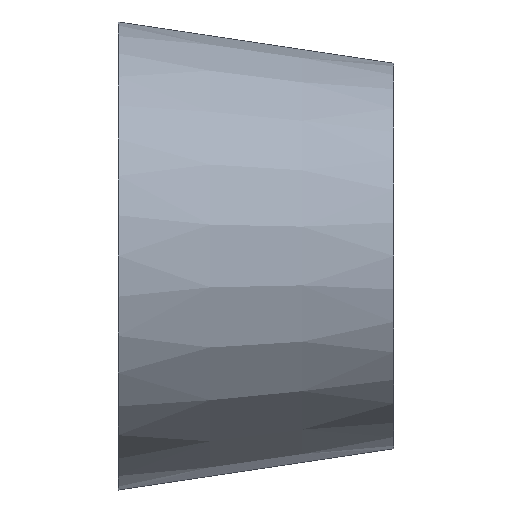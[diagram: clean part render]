
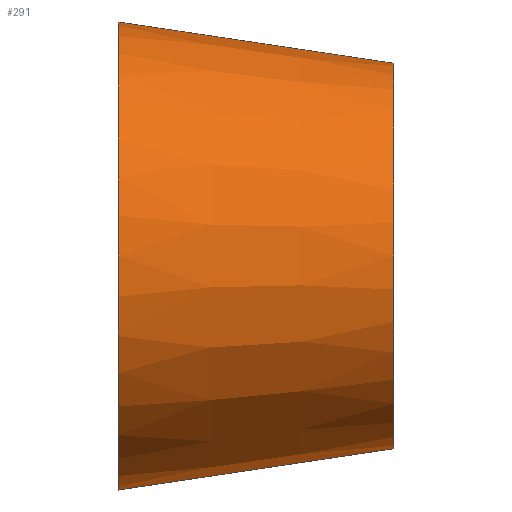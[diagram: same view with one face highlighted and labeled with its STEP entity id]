
A CAD part, left-side view. The second image highlights one B-rep face of the part: STEP entity #291.
In plain terms, the highlighted conical face has half-angle 8.531 degrees and reference radius 7 mm.
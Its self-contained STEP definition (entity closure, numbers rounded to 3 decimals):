
#6 = DIRECTION ( 'NONE',  ( 0., 0., 1. ) ) ;
#22 = ORIENTED_EDGE ( 'NONE', *, *, #174, .T. ) ;
#39 = CONICAL_SURFACE ( 'NONE', #221, 7., 0.149 ) ;
#40 = ORIENTED_EDGE ( 'NONE', *, *, #243, .F. ) ;
#52 = CARTESIAN_POINT ( 'NONE',  ( 0., -10., 7. ) ) ;
#53 = LINE ( 'NONE', #236, #124 ) ;
#57 = VECTOR ( 'NONE', #228, 1000. ) ;
#61 = AXIS2_PLACEMENT_3D ( 'NONE', #73, #155, #226 ) ;
#64 = VERTEX_POINT ( 'NONE', #154 ) ;
#73 = CARTESIAN_POINT ( 'NONE',  ( 0., 0., 0. ) ) ;
#79 = DIRECTION ( 'NONE',  ( 0., 0.989, -0.148 ) ) ;
#83 = EDGE_CURVE ( 'NONE', #141, #219, #145, .T. ) ;
#86 = ORIENTED_EDGE ( 'NONE', *, *, #100, .F. ) ;
#100 = EDGE_CURVE ( 'NONE', #102, #64, #267, .T. ) ;
#102 = VERTEX_POINT ( 'NONE', #255 ) ;
#124 = VECTOR ( 'NONE', #79, 1000. ) ;
#136 = CARTESIAN_POINT ( 'NONE',  ( 0., -10., -7. ) ) ;
#140 = DIRECTION ( 'NONE',  ( 0., 0., 1. ) ) ;
#141 = VERTEX_POINT ( 'NONE', #136 ) ;
#145 = CIRCLE ( 'NONE', #274, 7. ) ;
#147 = FACE_OUTER_BOUND ( 'NONE', #235, .T. ) ;
#154 = CARTESIAN_POINT ( 'NONE',  ( 0., 0., 8.5 ) ) ;
#155 = DIRECTION ( 'NONE',  ( 0., 1., 0. ) ) ;
#167 = LINE ( 'NONE', #52, #57 ) ;
#173 = CARTESIAN_POINT ( 'NONE',  ( 0., -10., 7. ) ) ;
#174 = EDGE_CURVE ( 'NONE', #219, #64, #167, .T. ) ;
#184 = DIRECTION ( 'NONE',  ( 0., 1., 0. ) ) ;
#201 = CARTESIAN_POINT ( 'NONE',  ( 0., -10., 0. ) ) ;
#219 = VERTEX_POINT ( 'NONE', #173 ) ;
#221 = AXIS2_PLACEMENT_3D ( 'NONE', #282, #184, #140 ) ;
#223 = DIRECTION ( 'NONE',  ( 0., 1., 0. ) ) ;
#226 = DIRECTION ( 'NONE',  ( 0., 0., 1. ) ) ;
#228 = DIRECTION ( 'NONE',  ( 0., 0.989, 0.148 ) ) ;
#235 = EDGE_LOOP ( 'NONE', ( #40, #240, #22, #86 ) ) ;
#236 = CARTESIAN_POINT ( 'NONE',  ( 0., -10., -7. ) ) ;
#240 = ORIENTED_EDGE ( 'NONE', *, *, #83, .T. ) ;
#243 = EDGE_CURVE ( 'NONE', #141, #102, #53, .T. ) ;
#255 = CARTESIAN_POINT ( 'NONE',  ( 0., 0., -8.5 ) ) ;
#267 = CIRCLE ( 'NONE', #61, 8.5 ) ;
#274 = AXIS2_PLACEMENT_3D ( 'NONE', #201, #223, #6 ) ;
#282 = CARTESIAN_POINT ( 'NONE',  ( 0., -10., 0. ) ) ;
#291 = ADVANCED_FACE ( 'NONE', ( #147 ), #39, .T. ) ;
